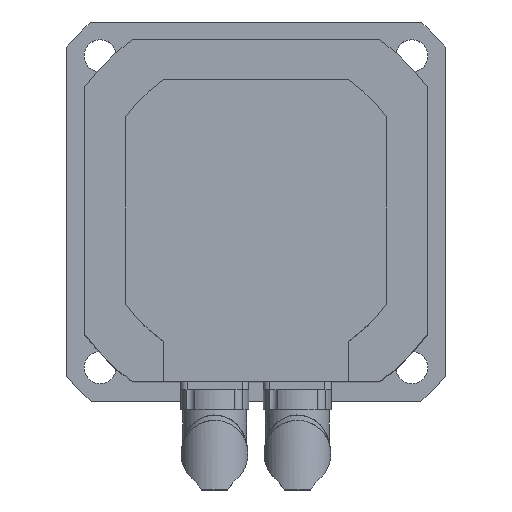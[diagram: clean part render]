
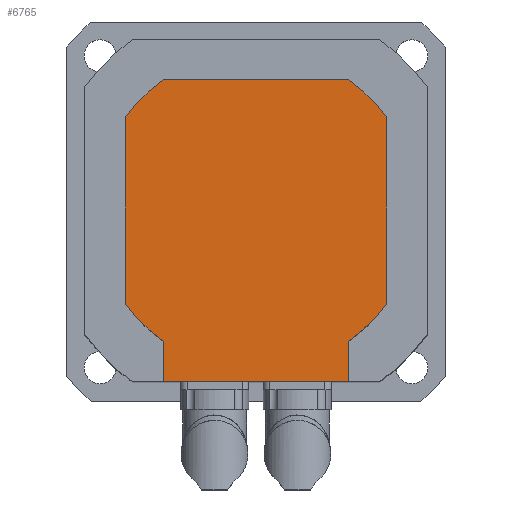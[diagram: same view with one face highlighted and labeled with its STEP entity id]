
A CAD part, top view. The second image highlights one B-rep face of the part: STEP entity #6765.
In plain terms, the highlighted planar face has unit normal (0, 0, 1).
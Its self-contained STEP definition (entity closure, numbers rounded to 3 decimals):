
#3962=CARTESIAN_POINT('',(-49.,-34.627,48.));
#3963=VERTEX_POINT('',#3962);
#3970=CARTESIAN_POINT('',(-49.,34.627,48.));
#3971=VERTEX_POINT('',#3970);
#3972=CARTESIAN_POINT('',(-49.,34.627,48.));
#3973=DIRECTION('',(0.0,-1.0,0.0));
#3974=VECTOR('',#3973,69.253);
#3975=LINE('',#3972,#3974);
#3976=EDGE_CURVE('',#3971,#3963,#3975,.T.);
#4020=CARTESIAN_POINT('',(49.0,34.627,48.));
#4021=VERTEX_POINT('',#4020);
#4028=CARTESIAN_POINT('',(49.0,-34.627,48.));
#4029=VERTEX_POINT('',#4028);
#4030=CARTESIAN_POINT('',(49.0,-34.627,48.));
#4031=DIRECTION('',(0.0,1.0,0.0));
#4032=VECTOR('',#4031,69.253);
#4033=LINE('',#4030,#4032);
#4034=EDGE_CURVE('',#4029,#4021,#4033,.T.);
#6490=CARTESIAN_POINT('',(-34.627,49.0,48.));
#6491=VERTEX_POINT('',#6490);
#6498=CARTESIAN_POINT('',(34.627,49.0,48.));
#6499=VERTEX_POINT('',#6498);
#6500=CARTESIAN_POINT('',(34.627,49.0,48.));
#6501=DIRECTION('',(-1.0,0.0,0.0));
#6502=VECTOR('',#6501,69.253);
#6503=LINE('',#6500,#6502);
#6504=EDGE_CURVE('',#6499,#6491,#6503,.T.);
#6522=CARTESIAN_POINT('',(34.627,-49.0,48.));
#6523=VERTEX_POINT('',#6522);
#6524=CARTESIAN_POINT('',(0.0,0.0,48.));
#6525=DIRECTION('',(0.0,0.0,-1.0));
#6526=DIRECTION('',(-1.0,0.0,0.0));
#6527=AXIS2_PLACEMENT_3D('',#6524,#6525,#6526);
#6528=CIRCLE('',#6527,60.0);
#6529=EDGE_CURVE('',#4029,#6523,#6528,.T.);
#6547=CARTESIAN_POINT('',(0.0,0.0,48.));
#6548=DIRECTION('',(0.0,0.0,-1.0));
#6549=DIRECTION('',(-1.0,0.0,0.0));
#6550=AXIS2_PLACEMENT_3D('',#6547,#6548,#6549);
#6551=CIRCLE('',#6550,60.0);
#6552=EDGE_CURVE('',#6499,#4021,#6551,.T.);
#6565=CARTESIAN_POINT('',(0.0,0.0,48.));
#6566=DIRECTION('',(0.0,0.0,-1.0));
#6567=DIRECTION('',(-1.0,0.0,0.0));
#6568=AXIS2_PLACEMENT_3D('',#6565,#6566,#6567);
#6569=CIRCLE('',#6568,60.0);
#6570=EDGE_CURVE('',#3971,#6491,#6569,.T.);
#6584=CARTESIAN_POINT('',(-34.627,-49.0,48.));
#6585=VERTEX_POINT('',#6584);
#6592=CARTESIAN_POINT('',(0.0,0.0,48.));
#6593=DIRECTION('',(0.0,0.0,-1.0));
#6594=DIRECTION('',(-1.0,0.0,0.0));
#6595=AXIS2_PLACEMENT_3D('',#6592,#6593,#6594);
#6596=CIRCLE('',#6595,60.0);
#6597=EDGE_CURVE('',#6585,#3963,#6596,.T.);
#6642=CARTESIAN_POINT('',(34.627,-64.0,48.));
#6643=VERTEX_POINT('',#6642);
#6644=CARTESIAN_POINT('',(34.627,-49.0,48.));
#6645=DIRECTION('',(0.0,-1.0,0.0));
#6646=VECTOR('',#6645,15.0);
#6647=LINE('',#6644,#6646);
#6648=EDGE_CURVE('',#6523,#6643,#6647,.T.);
#6664=CARTESIAN_POINT('',(-34.627,-64.0,48.));
#6665=VERTEX_POINT('',#6664);
#6672=CARTESIAN_POINT('',(-34.627,-49.0,48.));
#6673=DIRECTION('',(0.0,-1.0,0.0));
#6674=VECTOR('',#6673,15.0);
#6675=LINE('',#6672,#6674);
#6676=EDGE_CURVE('',#6585,#6665,#6675,.T.);
#6696=CARTESIAN_POINT('',(34.627,-64.0,48.));
#6697=DIRECTION('',(-1.0,0.0,0.0));
#6698=VECTOR('',#6697,69.253);
#6699=LINE('',#6696,#6698);
#6700=EDGE_CURVE('',#6643,#6665,#6699,.T.);
#6748=CARTESIAN_POINT('',(49.,-64.,48.));
#6749=DIRECTION('',(0.0,0.0,-1.0));
#6750=DIRECTION('',(-1.0,0.0,0.0));
#6751=AXIS2_PLACEMENT_3D('',#6748,#6749,#6750);
#6752=PLANE('',#6751);
#6753=ORIENTED_EDGE('',*,*,#3976,.T.);
#6754=ORIENTED_EDGE('',*,*,#6597,.F.);
#6755=ORIENTED_EDGE('',*,*,#6676,.T.);
#6756=ORIENTED_EDGE('',*,*,#6700,.F.);
#6757=ORIENTED_EDGE('',*,*,#6648,.F.);
#6758=ORIENTED_EDGE('',*,*,#6529,.F.);
#6759=ORIENTED_EDGE('',*,*,#4034,.T.);
#6760=ORIENTED_EDGE('',*,*,#6552,.F.);
#6761=ORIENTED_EDGE('',*,*,#6504,.T.);
#6762=ORIENTED_EDGE('',*,*,#6570,.F.);
#6763=EDGE_LOOP('',(#6753,#6754,#6755,#6756,#6757,#6758,#6759,#6760,#6761,#6762));
#6764=FACE_OUTER_BOUND('',#6763,.T.);
#6765=ADVANCED_FACE('',(#6764),#6752,.F.);
